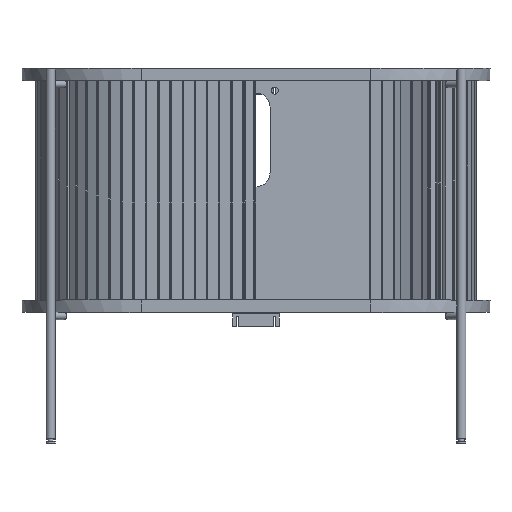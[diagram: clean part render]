
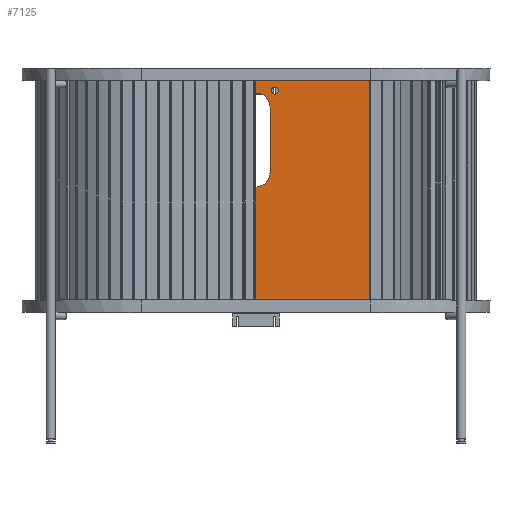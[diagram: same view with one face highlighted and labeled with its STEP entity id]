
A CAD part, top view. The second image highlights one B-rep face of the part: STEP entity #7125.
In plain terms, the highlighted planar face has unit normal (0, 0, 1).
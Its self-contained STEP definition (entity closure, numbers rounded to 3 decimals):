
#256 = ORIENTED_EDGE ( 'NONE', *, *, #6135, .T. ) ;
#258 = VERTEX_POINT ( 'NONE', #3231 ) ;
#382 = LINE ( 'NONE', #2482, #7781 ) ;
#396 = VECTOR ( 'NONE', #5197, 1000. ) ;
#421 = ORIENTED_EDGE ( 'NONE', *, *, #7717, .F. ) ;
#729 = EDGE_CURVE ( 'NONE', #2929, #2242, #8963, .T. ) ;
#861 = DIRECTION ( 'NONE',  ( 0., -1., 0. ) ) ;
#1068 = DIRECTION ( 'NONE',  ( 0., 0., 1. ) ) ;
#1767 = AXIS2_PLACEMENT_3D ( 'NONE', #11721, #12581, #3692 ) ;
#1964 = CARTESIAN_POINT ( 'NONE',  ( -30., 40., 8. ) ) ;
#2008 = AXIS2_PLACEMENT_3D ( 'NONE', #10695, #6880, #2963 ) ;
#2034 = DIRECTION ( 'NONE',  ( 1., 0., 0. ) ) ;
#2242 = VERTEX_POINT ( 'NONE', #4585 ) ;
#2464 = EDGE_LOOP ( 'NONE', ( #5333 ) ) ;
#2482 = CARTESIAN_POINT ( 'NONE',  ( 30., 180., 8. ) ) ;
#2680 = CARTESIAN_POINT ( 'NONE',  ( -243.5, 240., 8. ) ) ;
#2929 = VERTEX_POINT ( 'NONE', #1964 ) ;
#2963 = DIRECTION ( 'NONE',  ( 1., 0., 0. ) ) ;
#2992 = CARTESIAN_POINT ( 'NONE',  ( -30., 180., 8. ) ) ;
#3071 = DIRECTION ( 'NONE',  ( -1., 0., 0. ) ) ;
#3216 = FACE_BOUND ( 'NONE', #12523, .T. ) ;
#3231 = CARTESIAN_POINT ( 'NONE',  ( -32.5, 215., 8. ) ) ;
#3242 = EDGE_CURVE ( 'NONE', #8954, #3704, #9203, .T. ) ;
#3334 = CARTESIAN_POINT ( 'NONE',  ( 0., 0., 8. ) ) ;
#3389 = VECTOR ( 'NONE', #861, 1000. ) ;
#3501 = EDGE_CURVE ( 'NONE', #3704, #4379, #9051, .T. ) ;
#3692 = DIRECTION ( 'NONE',  ( 1., 0., 0. ) ) ;
#3704 = VERTEX_POINT ( 'NONE', #8225 ) ;
#3883 = EDGE_CURVE ( 'NONE', #258, #258, #6098, .T. ) ;
#3967 = CARTESIAN_POINT ( 'NONE',  ( 0., 180., 8. ) ) ;
#4153 = CARTESIAN_POINT ( 'NONE',  ( -243.5, -240., 8. ) ) ;
#4298 = FACE_BOUND ( 'NONE', #10466, .T. ) ;
#4379 = VERTEX_POINT ( 'NONE', #5131 ) ;
#4469 = CARTESIAN_POINT ( 'NONE',  ( -30., 180., 8. ) ) ;
#4546 = ORIENTED_EDGE ( 'NONE', *, *, #729, .F. ) ;
#4585 = CARTESIAN_POINT ( 'NONE',  ( 30., 40., 8. ) ) ;
#4775 = AXIS2_PLACEMENT_3D ( 'NONE', #3334, #10350, #6279 ) ;
#4954 = DIRECTION ( 'NONE',  ( -1., 0., 0. ) ) ;
#5093 = ORIENTED_EDGE ( 'NONE', *, *, #7597, .T. ) ;
#5109 = ORIENTED_EDGE ( 'NONE', *, *, #7072, .F. ) ;
#5131 = CARTESIAN_POINT ( 'NONE',  ( 243.5, 240., 8. ) ) ;
#5197 = DIRECTION ( 'NONE',  ( 0., -1., 0. ) ) ;
#5296 = VERTEX_POINT ( 'NONE', #9927 ) ;
#5333 = ORIENTED_EDGE ( 'NONE', *, *, #3883, .T. ) ;
#5845 = LINE ( 'NONE', #2992, #3389 ) ;
#5884 = DIRECTION ( 'NONE',  ( 0., 0., -1. ) ) ;
#5896 = VECTOR ( 'NONE', #10071, 1000. ) ;
#6098 = CIRCLE ( 'NONE', #2008, 7.5 ) ;
#6135 = EDGE_CURVE ( 'NONE', #5296, #8954, #10943, .T. ) ;
#6175 = VERTEX_POINT ( 'NONE', #8437 ) ;
#6279 = DIRECTION ( 'NONE',  ( 1., 0., 0. ) ) ;
#6336 = FACE_BOUND ( 'NONE', #2464, .T. ) ;
#6390 = PLANE ( 'NONE',  #4775 ) ;
#6411 = CIRCLE ( 'NONE', #9730, 7.5 ) ;
#6740 = CARTESIAN_POINT ( 'NONE',  ( 40., 215., 8. ) ) ;
#6772 = VERTEX_POINT ( 'NONE', #4469 ) ;
#6880 = DIRECTION ( 'NONE',  ( 0., 0., -1. ) ) ;
#7072 = EDGE_CURVE ( 'NONE', #2242, #6175, #382, .T. ) ;
#7073 = CARTESIAN_POINT ( 'NONE',  ( -243.5, 240., 8. ) ) ;
#7125 = ADVANCED_FACE ( 'NONE', ( #3216, #6336, #4298, #11317 ), #6390, .T. ) ;
#7364 = LINE ( 'NONE', #2680, #9915 ) ;
#7597 = EDGE_CURVE ( 'NONE', #8572, #8572, #6411, .T. ) ;
#7717 = EDGE_CURVE ( 'NONE', #6175, #6772, #11784, .T. ) ;
#7781 = VECTOR ( 'NONE', #11068, 1000. ) ;
#8210 = EDGE_CURVE ( 'NONE', #4379, #5296, #7364, .T. ) ;
#8225 = CARTESIAN_POINT ( 'NONE',  ( 243.5, -240., 8. ) ) ;
#8259 = ORIENTED_EDGE ( 'NONE', *, *, #11035, .F. ) ;
#8418 = ORIENTED_EDGE ( 'NONE', *, *, #3501, .T. ) ;
#8437 = CARTESIAN_POINT ( 'NONE',  ( 30., 180., 8. ) ) ;
#8572 = VERTEX_POINT ( 'NONE', #9519 ) ;
#8934 = DIRECTION ( 'NONE',  ( 1., 0., 0. ) ) ;
#8954 = VERTEX_POINT ( 'NONE', #11094 ) ;
#8963 = CIRCLE ( 'NONE', #1767, 30. ) ;
#9051 = LINE ( 'NONE', #10018, #5896 ) ;
#9203 = LINE ( 'NONE', #4153, #10759 ) ;
#9519 = CARTESIAN_POINT ( 'NONE',  ( 32.5, 215., 8. ) ) ;
#9527 = AXIS2_PLACEMENT_3D ( 'NONE', #3967, #1068, #2034 ) ;
#9696 = EDGE_LOOP ( 'NONE', ( #256, #9940, #8418, #12412 ) ) ;
#9730 = AXIS2_PLACEMENT_3D ( 'NONE', #6740, #5884, #3071 ) ;
#9915 = VECTOR ( 'NONE', #4954, 1000. ) ;
#9927 = CARTESIAN_POINT ( 'NONE',  ( -243.5, 240., 8. ) ) ;
#9940 = ORIENTED_EDGE ( 'NONE', *, *, #3242, .T. ) ;
#10018 = CARTESIAN_POINT ( 'NONE',  ( 243.5, 240., 8. ) ) ;
#10071 = DIRECTION ( 'NONE',  ( 0., 1., 0. ) ) ;
#10350 = DIRECTION ( 'NONE',  ( 0., 0., 1. ) ) ;
#10466 = EDGE_LOOP ( 'NONE', ( #421, #5109, #4546, #8259 ) ) ;
#10695 = CARTESIAN_POINT ( 'NONE',  ( -40., 215., 8. ) ) ;
#10759 = VECTOR ( 'NONE', #8934, 1000. ) ;
#10943 = LINE ( 'NONE', #7073, #396 ) ;
#11035 = EDGE_CURVE ( 'NONE', #6772, #2929, #5845, .T. ) ;
#11068 = DIRECTION ( 'NONE',  ( 0., 1., 0. ) ) ;
#11094 = CARTESIAN_POINT ( 'NONE',  ( -243.5, -240., 8. ) ) ;
#11317 = FACE_OUTER_BOUND ( 'NONE', #9696, .T. ) ;
#11721 = CARTESIAN_POINT ( 'NONE',  ( 0., 40., 8. ) ) ;
#11784 = CIRCLE ( 'NONE', #9527, 30. ) ;
#12412 = ORIENTED_EDGE ( 'NONE', *, *, #8210, .T. ) ;
#12523 = EDGE_LOOP ( 'NONE', ( #5093 ) ) ;
#12581 = DIRECTION ( 'NONE',  ( 0., 0., 1. ) ) ;
